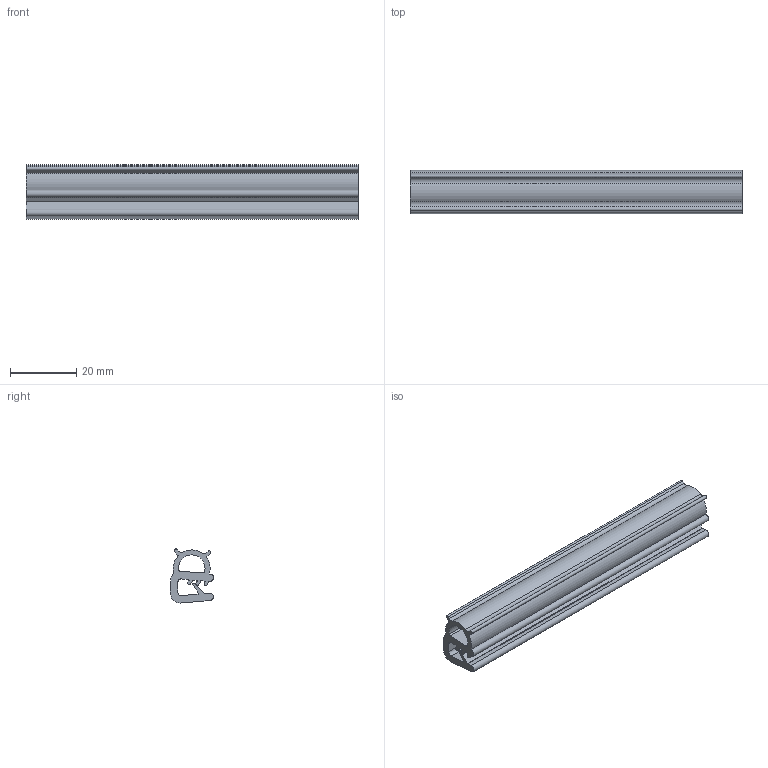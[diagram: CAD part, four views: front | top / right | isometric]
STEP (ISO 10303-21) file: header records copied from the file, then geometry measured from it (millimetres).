
FILE_DESCRIPTION( ( 'STEP AP203' ), '1' );
FILE_NAME( 'C:/Temp/Ganter_Step_05_03_2020/data/3_3/gn2180/Edge protection seal profile GN 2180-NBR-13-D-20.stp', '2020-03-12T12:04:06', ( 'License CC BY-ND 4.0' ), ( 'CADENAS' ), ' ', 'PARTsolutions', ' ' );
FILE_SCHEMA( ( 'CONFIG_CONTROL_DESIGN' ) );
Length unit declared in the file: millimetre
Products named in the file (1): _Edge protection seal profile GN 2180-NBR-13-D-20
Bounding box: 100 x 13 x 16.29 mm (x, y, z)
Volume: 10616.9 mm3; surface area: 11599.7 mm2
Topology: 1 solids, 1 shells, 54 faces, 156 edges, 104 vertices
Faces by surface type: cylinder 31, plane 23
Entity records: 1850 total; most frequent: DIRECTION 328, CARTESIAN_POINT 315, ORIENTED_EDGE 312, EDGE_CURVE 156, AXIS2_PLACEMENT_3D 117, VERTEX_POINT 104, LINE 94, VECTOR 94
